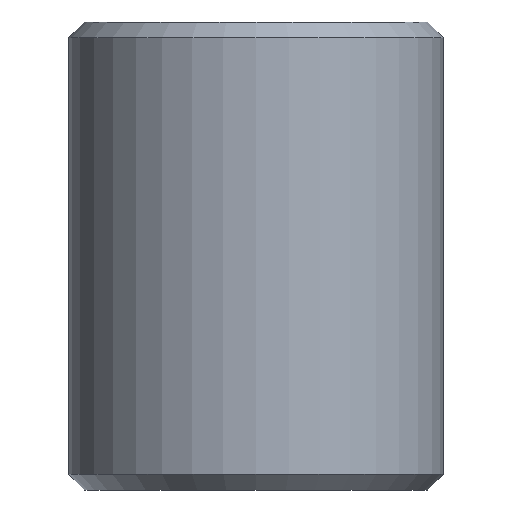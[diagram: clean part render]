
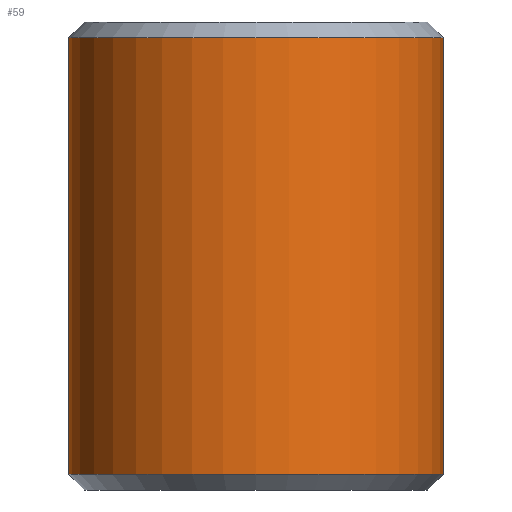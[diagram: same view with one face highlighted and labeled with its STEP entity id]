
A CAD part, front view. The second image highlights one B-rep face of the part: STEP entity #59.
In plain terms, the highlighted cylindrical face has radius 6 mm (diameter 12 mm), a partial arc.
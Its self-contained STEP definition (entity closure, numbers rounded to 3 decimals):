
#59=ADVANCED_FACE('',(#85),#86,.T.);
#85=FACE_OUTER_BOUND('',#116,.T.);
#86=CYLINDRICAL_SURFACE('',#117,6.0);
#116=EDGE_LOOP('',(#185,#186,#187,#188));
#117=AXIS2_PLACEMENT_3D('',#189,#190,#191);
#185=ORIENTED_EDGE('',*,*,#246,.T.);
#186=ORIENTED_EDGE('',*,*,#252,.T.);
#187=ORIENTED_EDGE('',*,*,#247,.T.);
#188=ORIENTED_EDGE('',*,*,#253,.T.);
#189=CARTESIAN_POINT('',(0.0,0.0,0.0));
#190=DIRECTION('',(0.0,0.0,-1.0));
#191=DIRECTION('',(1.0,0.0,0.0));
#246=EDGE_CURVE('',#275,#287,#290,.T.);
#247=EDGE_CURVE('',#283,#279,#291,.T.);
#252=EDGE_CURVE('',#287,#283,#296,.T.);
#253=EDGE_CURVE('',#279,#275,#297,.T.);
#275=VERTEX_POINT('',#325);
#279=VERTEX_POINT('',#330);
#283=VERTEX_POINT('',#335);
#287=VERTEX_POINT('',#340);
#290=LINE('',#344,#345);
#291=LINE('',#346,#347);
#296=CIRCLE('',#352,6.0);
#297=CIRCLE('',#353,6.0);
#325=CARTESIAN_POINT('',(6.0,0.,0.5));
#330=CARTESIAN_POINT('',(-6.0,0.0,0.5));
#335=CARTESIAN_POINT('',(-6.0,0.,14.5));
#340=CARTESIAN_POINT('',(6.0,0.0,14.5));
#344=CARTESIAN_POINT('',(6.0,0.,7.5));
#345=VECTOR('',#390,1.0);
#346=CARTESIAN_POINT('',(-6.0,0.,7.5));
#347=VECTOR('',#391,1.0);
#352=AXIS2_PLACEMENT_3D('',#404,#405,#406);
#353=AXIS2_PLACEMENT_3D('',#407,#408,#409);
#390=DIRECTION('',(-0.0,-0.0,1.0));
#391=DIRECTION('',(0.0,0.0,-1.0));
#404=CARTESIAN_POINT('',(0.0,0.0,14.5));
#405=DIRECTION('',(0.0,0.0,-1.0));
#406=DIRECTION('',(1.0,0.0,0.0));
#407=CARTESIAN_POINT('',(0.0,0.0,0.5));
#408=DIRECTION('',(0.0,0.0,1.0));
#409=DIRECTION('',(-1.0,0.0,0.0));
